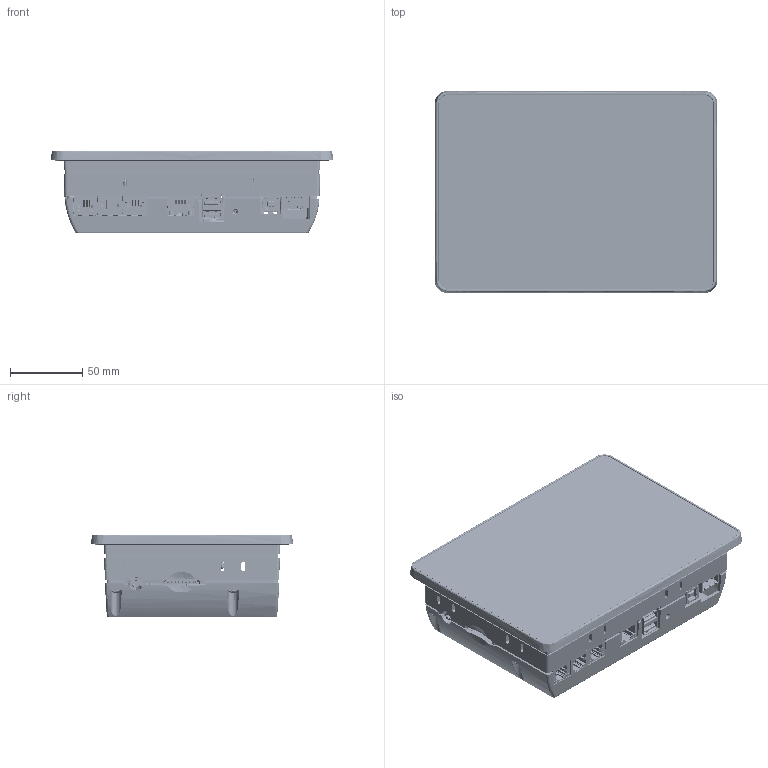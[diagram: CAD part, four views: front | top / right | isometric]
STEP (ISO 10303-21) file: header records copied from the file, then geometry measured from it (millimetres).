
FILE_DESCRIPTION (( 'STEP AP214' ), '1' );
FILE_NAME ('G07.STEP', '2013-09-16T15:06:05', ( 'Network Administration' ), ( 'Red Lion Controls Inc.' ), 'SwSTEP 2.0', 'SolidWorks 2013', '' );
FILE_SCHEMA (( 'AUTOMOTIVE_DESIGN' ));
Length unit declared in the file: millimetre
Products named in the file (67): CORE1; 7 INCH DISPLAY CABLE INSTALLED; TOUCH; CNMJ8803; CNBMS802; 511462000; 522070460; 7-INCH PCBA EPOXY; SLOT2; Hantronix HDA700L-GHL-RL WITH HARDWARE; Open CASCADE STEP translator 6.2 1.25.1.1; BAL3R006_BATTERY; SLOT3; 537802070; GK005014_THERMAL PAD, PROCESSOR; SLOT4; 7 INCH PORON GASKET-VERT(SINGLE STRIP); HOST; McMC 92949A112; SLOT5; 7 INCH PORON GASKET-HOZ(SINGLE STRIP); CNHFR081; McMC 92146A005; SLOT1; Plastite 48-2 3-24X25; LINE_OUT; McMC 90402A106; mec1-105-02-x-d-np-lc; DISPLAY - Hantronix HDA700L-GHL-RL; CUI-SJ-43515TS; HWM05015_BATTERY ACCESS PLUG; SD; PUSH_BUTTON; GK005128_7 Tacoma Module Insulator Strip(GK005128); SD-SLOT; G07; BI_SWT7-J3G; HWM05063_LIGHT PIPE 7; Open CASCADE STEP translator 6.2 1.7.1.1; BACKLIGHT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
Assembly tree (93 placements, depth 5):
  G07
    Hantronix HDA700L-GHL-RL WITH HARDWARE
      DISPLAY - Hantronix HDA700L-GHL-RL
      Plastite 48-2 3-24X25  x4
      7 INCH PORON GASKET-HOZ(SINGLE STRIP)  x2
      7 INCH PORON GASKET-VERT(SINGLE STRIP)  x2
      537802070
    WRPSA200(INSTALLED)
      511462000
      7 INCH DISPLAY CABLE INSTALLED
      5013300800
      5013301200
    BZ499900_FRONT BEZEL, 7 INCH HMI
    CV500400_REAR COVER, 7 INCH HMI(Default)
    GK005009_GASKET, PANEL, 7 INCH HMI
    SWM00012_TOUCH SCREEN ASSEMBLY, INDOOR, 7 INCH HMI(ASSEMBLY MODEL CONFIG)
    HWM05062_MODULE SOCKET PLUG  x5
    HWM05063_LIGHT PIPE 7  x3
    GK005128_7 Tacoma Module Insulator Strip(GK005128)
    HWM05015_BATTERY ACCESS PLUG
    McMC 90402A106  x4
    McMC 92146A005  x4
    McMC 92949A112  x4
    GK005014_THERMAL PAD, PROCESSOR
    BAL3R006_BATTERY  x2
    7-INCH PCBA EPOXY
    PB04893_
      ETHERNET
        CNMJ8803
      LED
        522070685
          Open CASCADE STEP translator 6.2 1.5.1.1
      BEEPER
        388687696
          Extruded-1
      SD
        SD-SLOT
          Open CASCADE STEP translator 6.2 1.7.1.1
      SLOT1
        mec1-105-02-x-d-np-lc
      SLOT5
        mec1-105-02-x-d-np-lc
      SLOT4
        mec1-105-02-x-d-np-lc
      SLOT3
        mec1-105-02-x-d-np-lc
      SLOT2
        mec1-105-02-x-d-np-lc
      CORE1
        CNBMS802
      CORE2
        CNBMS802
      POWER
        CNTP03X0
      DEVICE
        CNHFR040
      BATTERY
        TYCO#1775485-1
      BACKLIGHT
        CNHMR021-JST_version
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Bounding box: 195.54 x 139.9 x 57.13 mm (x, y, z)
Volume: 449035.4 mm3; surface area: 538320.2 mm2
Topology: 178 solids, 178 shells, 26072 faces, 69406 edges, 43234 vertices
Faces by surface type: plane 14912, cylinder 6256, bspline 3022, cone 1057, sphere 436, torus 389
Entity records: 654271 total; most frequent: CARTESIAN_POINT 197895, ORIENTED_EDGE 99294, DIRECTION 83699, EDGE_CURVE 49647, VECTOR 33479, LINE 33479, VERTEX_POINT 31186, AXIS2_PLACEMENT_3D 25110
